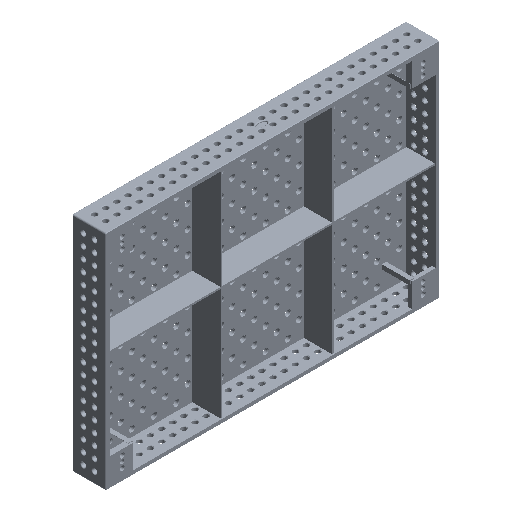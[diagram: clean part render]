
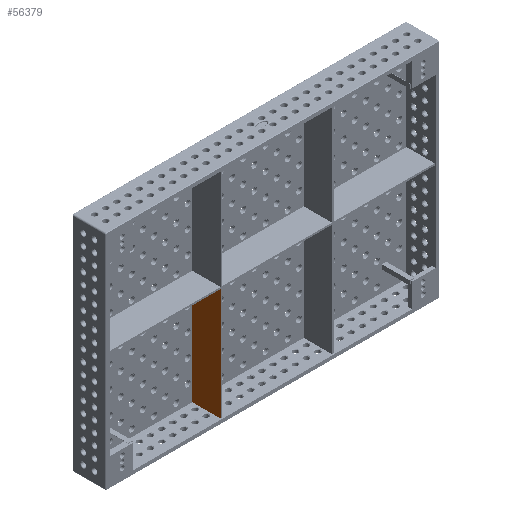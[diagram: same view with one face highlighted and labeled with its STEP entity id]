
A CAD part, isometric view. The second image highlights one B-rep face of the part: STEP entity #56379.
In plain terms, the highlighted planar face has unit normal (-1, 0, 0).
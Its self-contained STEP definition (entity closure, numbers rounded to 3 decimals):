
#935 = DIRECTION ( 'NONE',  ( 0., -1., 0. ) ) ;
#1101 = DIRECTION ( 'NONE',  ( 0., 0., 1. ) ) ;
#2372 = VECTOR ( 'NONE', #79087, 1000. ) ;
#11223 = ORIENTED_EDGE ( 'NONE', *, *, #68548, .F. ) ;
#11274 = EDGE_LOOP ( 'NONE', ( #11223, #80435, #67580, #83394 ) ) ;
#11885 = EDGE_CURVE ( 'NONE', #16436, #68886, #75330, .T. ) ;
#15697 = LINE ( 'NONE', #28691, #54815 ) ;
#16436 = VERTEX_POINT ( 'NONE', #20957 ) ;
#17428 = PLANE ( 'NONE',  #41641 ) ;
#20957 = CARTESIAN_POINT ( 'NONE',  ( -229., -18., -482. ) ) ;
#22856 = DIRECTION ( 'NONE',  ( -1., 0., 0. ) ) ;
#25623 = EDGE_CURVE ( 'NONE', #16436, #53872, #26112, .T. ) ;
#26018 = EDGE_CURVE ( 'NONE', #53872, #66300, #66931, .T. ) ;
#26112 = LINE ( 'NONE', #81517, #69421 ) ;
#28691 = CARTESIAN_POINT ( 'NONE',  ( -229., -145., 21. ) ) ;
#41641 = AXIS2_PLACEMENT_3D ( 'NONE', #44276, #22856, #44699 ) ;
#43833 = FACE_OUTER_BOUND ( 'NONE', #11274, .T. ) ;
#44276 = CARTESIAN_POINT ( 'NONE',  ( -229., -145., -482. ) ) ;
#44699 = DIRECTION ( 'NONE',  ( 0., 0., 1. ) ) ;
#45484 = VECTOR ( 'NONE', #1101, 1000. ) ;
#53872 = VERTEX_POINT ( 'NONE', #81598 ) ;
#54506 = CARTESIAN_POINT ( 'NONE',  ( -229., -18., 21. ) ) ;
#54815 = VECTOR ( 'NONE', #935, 1000. ) ;
#56379 = ADVANCED_FACE ( 'NONE', ( #43833 ), #17428, .T. ) ;
#61499 = CARTESIAN_POINT ( 'NONE',  ( -229., -18., -482. ) ) ;
#66300 = VERTEX_POINT ( 'NONE', #80301 ) ;
#66931 = LINE ( 'NONE', #77781, #2372 ) ;
#67580 = ORIENTED_EDGE ( 'NONE', *, *, #25623, .T. ) ;
#68548 = EDGE_CURVE ( 'NONE', #68886, #66300, #15697, .T. ) ;
#68886 = VERTEX_POINT ( 'NONE', #54506 ) ;
#69421 = VECTOR ( 'NONE', #75240, 1000. ) ;
#75240 = DIRECTION ( 'NONE',  ( 0., -1., 0. ) ) ;
#75330 = LINE ( 'NONE', #61499, #45484 ) ;
#77781 = CARTESIAN_POINT ( 'NONE',  ( -229., -145., -482. ) ) ;
#79087 = DIRECTION ( 'NONE',  ( 0., 0., 1. ) ) ;
#80301 = CARTESIAN_POINT ( 'NONE',  ( -229., -145., 21. ) ) ;
#80435 = ORIENTED_EDGE ( 'NONE', *, *, #11885, .F. ) ;
#81517 = CARTESIAN_POINT ( 'NONE',  ( -229., -18., -482. ) ) ;
#81598 = CARTESIAN_POINT ( 'NONE',  ( -229., -145., -482. ) ) ;
#83394 = ORIENTED_EDGE ( 'NONE', *, *, #26018, .T. ) ;
